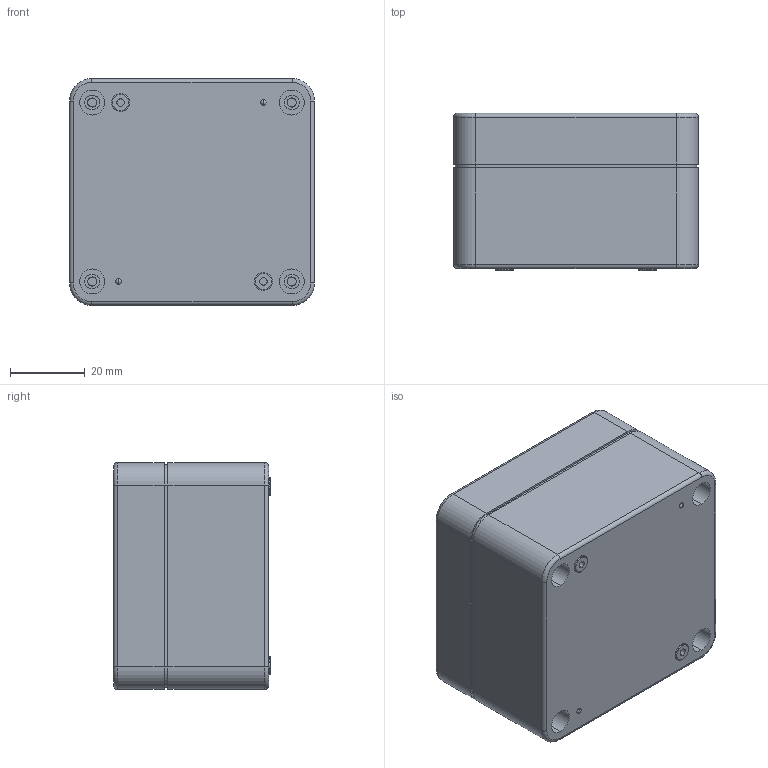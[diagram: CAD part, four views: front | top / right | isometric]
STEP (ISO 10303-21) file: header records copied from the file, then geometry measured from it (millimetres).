
FILE_DESCRIPTION (( 'STEP AP214' ), '1' );
FILE_NAME ('Conjunt PP74.STEP', '2018-01-04T15:50:14', ( 'aaa' ), ( '' ), 'SwSTEP 2.0', 'SolidWorks 2013', '' );
FILE_SCHEMA (( 'AUTOMOTIVE_DESIGN' ));
Length unit declared in the file: millimetre
Products named in the file (7): Cargol M 3x10 PP74; JuntaPP74; Fijacion tornillo PP74; Cargol 2,1x6,5 PP74; Tapa PP74; Cuerpo PP74; Conjunt PP74
Assembly tree (13 placements, depth 2):
  Conjunt PP74
    Cuerpo PP74
    Tapa PP74
    Cargol 2,1x6,5 PP74  x2
    Fijacion tornillo PP74  x4
    JuntaPP74
    Cargol M 3x10 PP74  x4
Bounding box: 65.7 x 42.1 x 60.8 mm (x, y, z)
Volume: 57657.8 mm3; surface area: 42117.7 mm2
Topology: 13 solids, 13 shells, 913 faces, 2140 edges, 1286 vertices
Faces by surface type: cone 344, cylinder 274, plane 235, torus 56, bspline 4
Entity records: 18700 total; most frequent: CARTESIAN_POINT 3897, DIRECTION 3226, ORIENTED_EDGE 2942, EDGE_CURVE 1471, AXIS2_PLACEMENT_3D 1240, VERTEX_POINT 927, LINE 746, VECTOR 746
